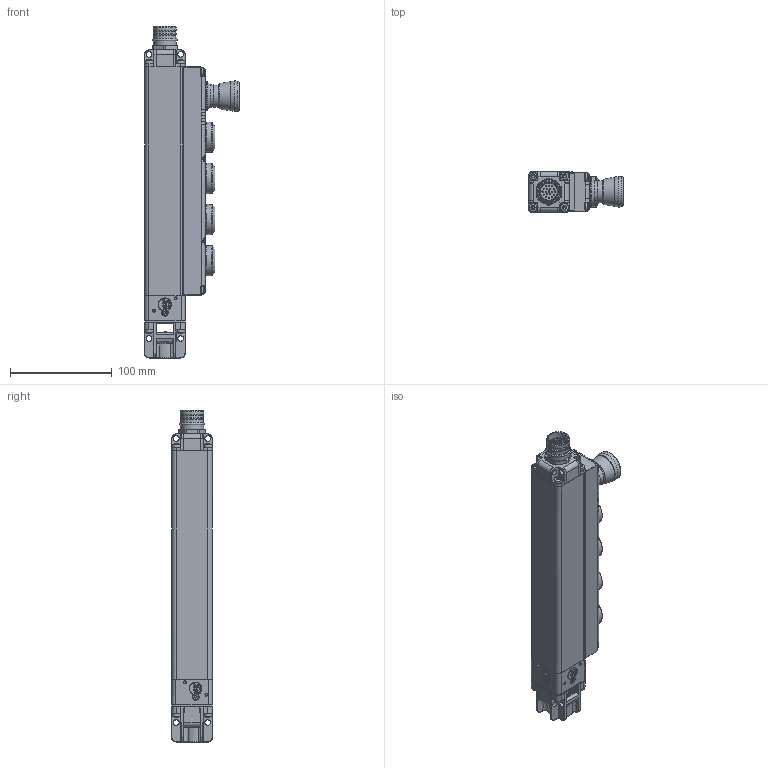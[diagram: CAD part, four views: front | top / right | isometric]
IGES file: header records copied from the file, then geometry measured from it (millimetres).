
Global section: file name: 2037998_A_PSENmg1-B-xxxxx-Lxxx-Ux-U; native system: Autodesk Inventor 2024; preprocessor: unknown; author: p.rimml; date: 20250811.074318; units: millimetre
Bounding box: 93.5 x 40 x 326.9 mm (x, y, z)
Volume: 657516 mm3; surface area: 87789.5 mm2
Topology: 1 solids, 1 shells, 2035 faces, 5264 edges, 3271 vertices
Faces by surface type: bspline 2035
